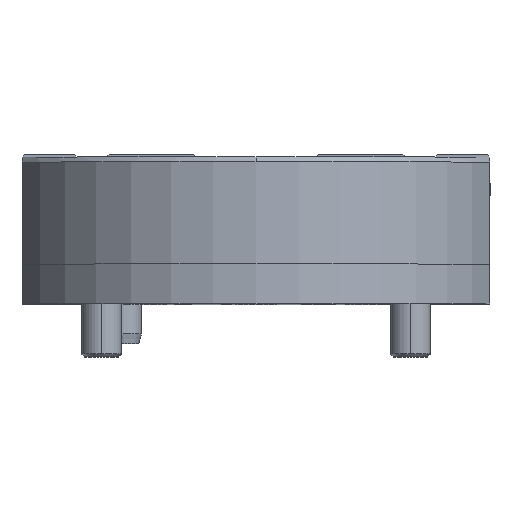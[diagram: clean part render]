
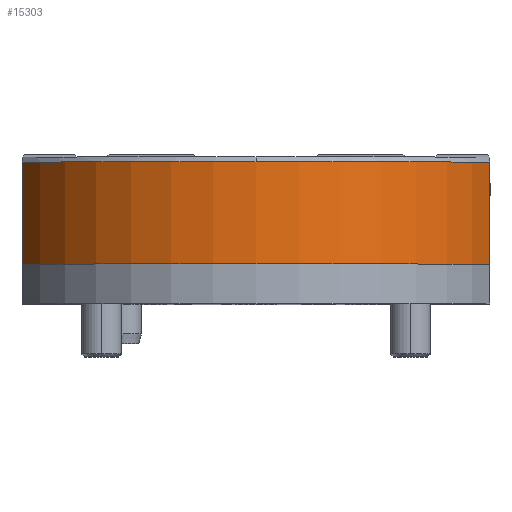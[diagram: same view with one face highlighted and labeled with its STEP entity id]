
A CAD part, top view. The second image highlights one B-rep face of the part: STEP entity #15303.
In plain terms, the highlighted cylindrical face has radius 50 mm (diameter 100 mm), a partial arc.
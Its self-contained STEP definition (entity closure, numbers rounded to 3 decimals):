
#260 = CIRCLE ( 'NONE', #11432, 50. ) ;
#272 = ORIENTED_EDGE ( 'NONE', *, *, #2013, .T. ) ;
#801 = CARTESIAN_POINT ( 'NONE',  ( 94., 17., -25.941 ) ) ;
#1314 = AXIS2_PLACEMENT_3D ( 'NONE', #11971, #2145, #13630 ) ;
#1840 = CARTESIAN_POINT ( 'NONE',  ( 94., 17., -25.941 ) ) ;
#2013 = EDGE_CURVE ( 'NONE', #14178, #10275, #260, .T. ) ;
#2145 = DIRECTION ( 'NONE',  ( 0., 1., 0. ) ) ;
#3138 = CARTESIAN_POINT ( 'NONE',  ( 47., -3.5, -43. ) ) ;
#3682 = DIRECTION ( 'NONE',  ( 0., 1., 0. ) ) ;
#4136 = EDGE_CURVE ( 'NONE', #10275, #14476, #20716, .T. ) ;
#4490 = EDGE_LOOP ( 'NONE', ( #9946, #18845, #17286, #272, #12325 ) ) ;
#4641 = VECTOR ( 'NONE', #3682, 1000. ) ;
#5551 = CARTESIAN_POINT ( 'NONE',  ( 0., 17., -25.941 ) ) ;
#5655 = DIRECTION ( 'NONE',  ( 0., 1., 0. ) ) ;
#5792 = CARTESIAN_POINT ( 'NONE',  ( 94., -3.5, -25.941 ) ) ;
#5940 = DIRECTION ( 'NONE',  ( 0., 0., 1. ) ) ;
#6561 = EDGE_CURVE ( 'NONE', #15292, #11266, #14236, .T. ) ;
#7254 = CARTESIAN_POINT ( 'NONE',  ( 47., 17., -43. ) ) ;
#7280 = FACE_OUTER_BOUND ( 'NONE', #4490, .T. ) ;
#8300 = AXIS2_PLACEMENT_3D ( 'NONE', #7254, #18614, #8894 ) ;
#8894 = DIRECTION ( 'NONE',  ( 0., 0., -1. ) ) ;
#9043 = LINE ( 'NONE', #5551, #17178 ) ;
#9114 = CARTESIAN_POINT ( 'NONE',  ( 47., 17., -43. ) ) ;
#9946 = ORIENTED_EDGE ( 'NONE', *, *, #16223, .T. ) ;
#10072 = CARTESIAN_POINT ( 'NONE',  ( 0., 17., -25.941 ) ) ;
#10275 = VERTEX_POINT ( 'NONE', #14896 ) ;
#10735 = DIRECTION ( 'NONE',  ( 0., -1., 0. ) ) ;
#11266 = VERTEX_POINT ( 'NONE', #10072 ) ;
#11432 = AXIS2_PLACEMENT_3D ( 'NONE', #3138, #5655, #5940 ) ;
#11971 = CARTESIAN_POINT ( 'NONE',  ( 47., -3.5, -43. ) ) ;
#12325 = ORIENTED_EDGE ( 'NONE', *, *, #4136, .T. ) ;
#12782 = AXIS2_PLACEMENT_3D ( 'NONE', #9114, #10735, #18826 ) ;
#13630 = DIRECTION ( 'NONE',  ( 0., 0., 1. ) ) ;
#14178 = VERTEX_POINT ( 'NONE', #19610 ) ;
#14236 = CIRCLE ( 'NONE', #8300, 50. ) ;
#14366 = LINE ( 'NONE', #1840, #4641 ) ;
#14476 = VERTEX_POINT ( 'NONE', #5792 ) ;
#14896 = CARTESIAN_POINT ( 'NONE',  ( 47., -3.5, 7. ) ) ;
#14922 = CYLINDRICAL_SURFACE ( 'NONE', #12782, 50. ) ;
#15292 = VERTEX_POINT ( 'NONE', #801 ) ;
#15303 = ADVANCED_FACE ( 'NONE', ( #7280 ), #14922, .T. ) ;
#16223 = EDGE_CURVE ( 'NONE', #14476, #15292, #14366, .T. ) ;
#16440 = EDGE_CURVE ( 'NONE', #11266, #14178, #9043, .T. ) ;
#17178 = VECTOR ( 'NONE', #20013, 1000. ) ;
#17286 = ORIENTED_EDGE ( 'NONE', *, *, #16440, .T. ) ;
#18614 = DIRECTION ( 'NONE',  ( 0., -1., 0. ) ) ;
#18826 = DIRECTION ( 'NONE',  ( 0., 0., -1. ) ) ;
#18845 = ORIENTED_EDGE ( 'NONE', *, *, #6561, .T. ) ;
#19610 = CARTESIAN_POINT ( 'NONE',  ( 0., -3.5, -25.941 ) ) ;
#20013 = DIRECTION ( 'NONE',  ( 0., -1., 0. ) ) ;
#20716 = CIRCLE ( 'NONE', #1314, 50. ) ;
